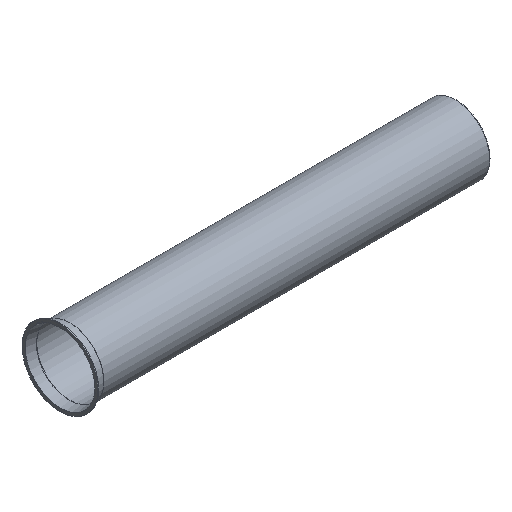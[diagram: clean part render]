
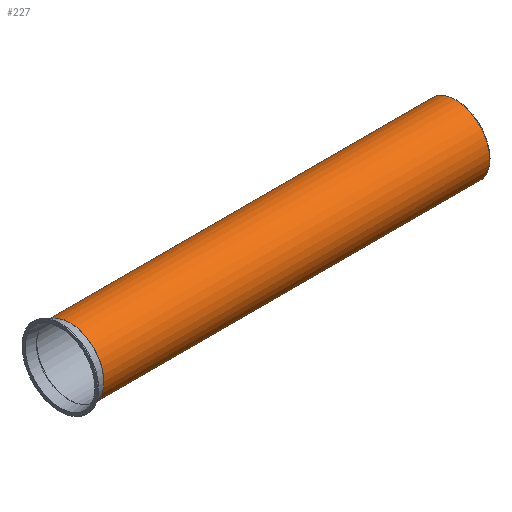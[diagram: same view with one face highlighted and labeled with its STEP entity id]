
A CAD part, isometric view. The second image highlights one B-rep face of the part: STEP entity #227.
In plain terms, the highlighted cylindrical face has radius 85 mm (diameter 170 mm), a full revolution.
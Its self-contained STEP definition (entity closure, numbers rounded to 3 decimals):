
#132=CARTESIAN_POINT('',(-2.081,46.834,0.0));
#133=VERTEX_POINT('',#132);
#134=CARTESIAN_POINT('',(-2.081,131.834,0.0));
#135=DIRECTION('',(-1.0,0.0,0.0));
#136=DIRECTION('',(0.0,-1.0,0.0));
#137=AXIS2_PLACEMENT_3D('',#134,#135,#136);
#138=CIRCLE('',#137,85.);
#139=EDGE_CURVE('',#133,#133,#138,.T.);
#201=CARTESIAN_POINT('',(963.919,46.834,0.0));
#202=VERTEX_POINT('',#201);
#203=CARTESIAN_POINT('',(963.919,131.834,0.0));
#204=DIRECTION('',(-1.0,0.0,0.0));
#205=DIRECTION('',(0.0,-1.0,0.0));
#206=AXIS2_PLACEMENT_3D('',#203,#204,#205);
#207=CIRCLE('',#206,85.);
#208=EDGE_CURVE('',#202,#202,#207,.T.);
#216=CARTESIAN_POINT('',(480.919,131.834,0.0));
#217=DIRECTION('',(-1.0,0.,0.0));
#218=DIRECTION('',(0.0,-1.0,0.0));
#219=AXIS2_PLACEMENT_3D('',#216,#217,#218);
#220=CYLINDRICAL_SURFACE('',#219,85.);
#221=ORIENTED_EDGE('',*,*,#139,.F.);
#222=EDGE_LOOP('',(#221));
#223=FACE_OUTER_BOUND('',#222,.T.);
#224=ORIENTED_EDGE('',*,*,#208,.T.);
#225=EDGE_LOOP('',(#224));
#226=FACE_BOUND('',#225,.T.);
#227=ADVANCED_FACE('',(#223,#226),#220,.T.);
